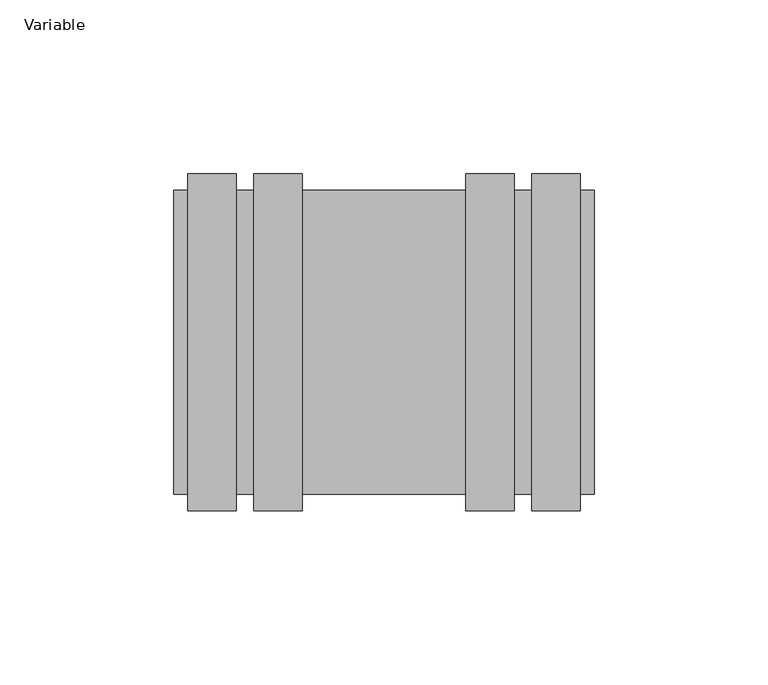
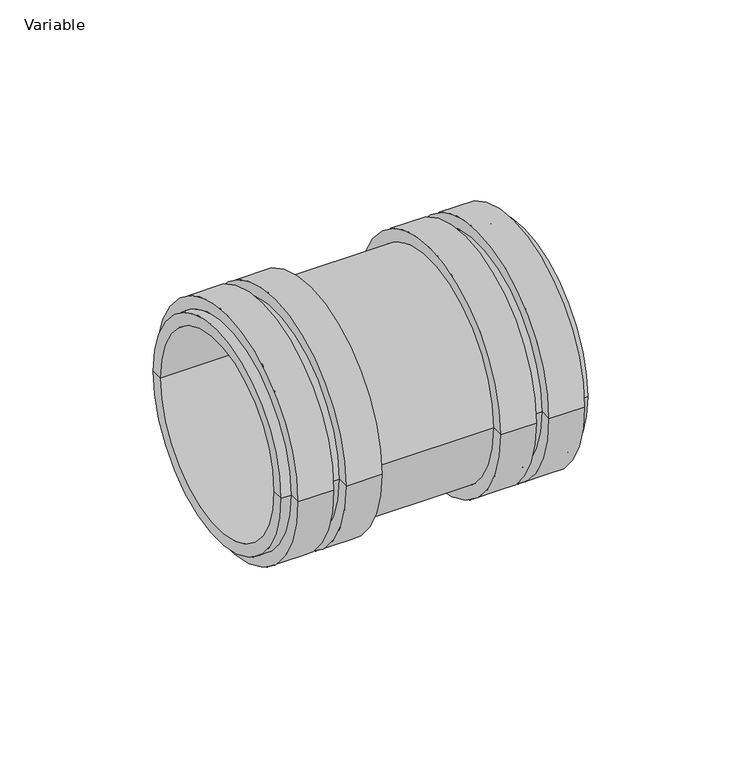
"""IFC4 building model written with IfcOpenShell, lengths in millimetres: pipe fitting geometry, AliaxisFR_Friaphon_AcousticCoupling_FR : Variable."""

from ifc_helpers import new_model, si_unit, frame, origin, place, context, project, spatial, polyline, circle_curve, source, transform, mapped, element, save
from ifc_brep_helpers import plane_surface, cylinder_surface, revolved_surface, advanced_brep


def variable_7b2c6562(model_context):
    return source(origin(), model_context, "Body", "AdvancedBrep", [
        advanced_brep(
        [(-6.5, -32.0, 0.0), (-6.5, 32.0, 0.0), (-6.5, 39.0, 0.0), (-6.5, -39.0, 0.0), (6.5, -32.0, 0.0), (6.5, 32.0, 0.0), (6.5, -39.0, 0.0), (6.5, 39.0, 0.0), (60.5, -39.0, 0.0), (60.5, 39.0, 0.0), (60.5, -43.75, 0.0), (60.5, 43.75, 0.0), (56.5, -43.75, 0.0), (56.5, 43.75, 0.0), (56.5, -48.5, 0.0), (56.5, 48.5, 0.0), (42.5, -48.5, 0.0), (42.5, 48.5, 0.0), (42.5, -43.75, 0.0), (42.5, 43.75, 0.0), (37.5, -43.75, 0.0), (37.5, 43.75, 0.0), (37.5, -48.5, 0.0), (37.5, 48.5, 0.0), (23.5, -48.5, 0.0), (23.5, 48.5, 0.0), (23.5, -43.75, 0.0), (23.5, 43.75, 0.0), (-23.5, -43.75, 0.0), (-23.5, 43.75, 0.0), (-23.5, -48.5, 0.0), (-23.5, 48.5, 0.0), (-37.5, -48.5, 0.0), (-37.5, 48.5, 0.0), (-37.5, -43.75, 0.0), (-37.5, 43.75, 0.0), (-42.5, -43.75, 0.0), (-42.5, 43.75, 0.0), (-42.5, -48.5, 0.0), (-42.5, 48.5, 0.0), (-56.5, -48.5, 0.0), (-56.5, 48.5, 0.0), (-56.5, -43.75, 0.0), (-56.5, 43.75, 0.0), (-60.5, -43.75, 0.0), (-60.5, 43.75, 0.0), (-60.5, -39.0, 0.0), (-60.5, 39.0, 0.0)],
        [
            (0, 1, circle_curve(frame((-6.5, 0.0, 0.0), z_axis=(1.0, 0.0, 0.0), x_axis=(0.0, 1.0, 0.0)), 32.0)),
            (1, 2),
            (2, 3, circle_curve(frame((-6.5, 0.0, 0.0), z_axis=(-1.0, 0.0, 0.0), x_axis=(0.0, 1.0, 0.0)), 39.0)),
            (3, 0),
            (1, 0, circle_curve(frame((-6.5, 0.0, 0.0), z_axis=(1.0, 0.0, 0.0), x_axis=(0.0, 1.0, 0.0)), 32.0)),
            (3, 2, circle_curve(frame((-6.5, 0.0, 0.0), z_axis=(-1.0, 0.0, 0.0), x_axis=(0.0, 1.0, 0.0)), 39.0)),
            (4, 5, circle_curve(frame((6.5, 0.0, 0.0), z_axis=(1.0, 0.0, 0.0), x_axis=(0.0, 1.0, 0.0)), 32.0)),
            (5, 1),
            (0, 4),
            (5, 4, circle_curve(frame((6.5, 0.0, 0.0), z_axis=(1.0, 0.0, 0.0), x_axis=(0.0, 1.0, 0.0)), 32.0)),
            (6, 7, circle_curve(frame((6.5, 0.0, 0.0), z_axis=(1.0, 0.0, 0.0), x_axis=(0.0, 1.0, 0.0)), 39.0)),
            (7, 5),
            (4, 6),
            (7, 6, circle_curve(frame((6.5, 0.0, 0.0), z_axis=(1.0, 0.0, 0.0), x_axis=(0.0, 1.0, 0.0)), 39.0)),
            (8, 9, circle_curve(frame((60.5, 0.0, 0.0), z_axis=(1.0, 0.0, 0.0), x_axis=(0.0, 1.0, 0.0)), 39.0)),
            (9, 7),
            (6, 8),
            (9, 8, circle_curve(frame((60.5, 0.0, 0.0), z_axis=(1.0, 0.0, 0.0), x_axis=(0.0, 1.0, 0.0)), 39.0)),
            (10, 11, circle_curve(frame((60.5, 0.0, 0.0), z_axis=(1.0, 0.0, 0.0), x_axis=(0.0, 1.0, 0.0)), 43.75)),
            (11, 9),
            (8, 10),
            (11, 10, circle_curve(frame((60.5, 0.0, 0.0), z_axis=(1.0, 0.0, 0.0), x_axis=(0.0, 1.0, 0.0)), 43.75)),
            (12, 13, circle_curve(frame((56.5, 0.0, 0.0), z_axis=(1.0, 0.0, 0.0), x_axis=(0.0, 1.0, 0.0)), 43.75)),
            (13, 11),
            (10, 12),
            (13, 12, circle_curve(frame((56.5, 0.0, 0.0), z_axis=(1.0, 0.0, 0.0), x_axis=(0.0, 1.0, 0.0)), 43.75)),
            (14, 15, circle_curve(frame((56.5, 0.0, 0.0), z_axis=(1.0, 0.0, 0.0), x_axis=(0.0, 1.0, 0.0)), 48.5)),
            (15, 13),
            (12, 14),
            (15, 14, circle_curve(frame((56.5, 0.0, 0.0), z_axis=(1.0, 0.0, 0.0), x_axis=(0.0, 1.0, 0.0)), 48.5)),
            (16, 17, circle_curve(frame((42.5, 0.0, 0.0), z_axis=(1.0, 0.0, 0.0), x_axis=(0.0, 1.0, 0.0)), 48.5)),
            (17, 15),
            (14, 16),
            (17, 16, circle_curve(frame((42.5, 0.0, 0.0), z_axis=(1.0, 0.0, 0.0), x_axis=(0.0, 1.0, 0.0)), 48.5)),
            (18, 19, circle_curve(frame((42.5, 0.0, 0.0), z_axis=(1.0, 0.0, 0.0), x_axis=(0.0, 1.0, 0.0)), 43.75)),
            (19, 17),
            (16, 18),
            (19, 18, circle_curve(frame((42.5, 0.0, 0.0), z_axis=(1.0, 0.0, 0.0), x_axis=(0.0, 1.0, 0.0)), 43.75)),
            (20, 21, circle_curve(frame((37.5, 0.0, 0.0), z_axis=(1.0, 0.0, 0.0), x_axis=(0.0, 1.0, 0.0)), 43.75)),
            (21, 19),
            (18, 20),
            (21, 20, circle_curve(frame((37.5, 0.0, 0.0), z_axis=(1.0, 0.0, 0.0), x_axis=(0.0, 1.0, 0.0)), 43.75)),
            (22, 23, circle_curve(frame((37.5, 0.0, 0.0), z_axis=(1.0, 0.0, 0.0), x_axis=(0.0, 1.0, 0.0)), 48.5)),
            (23, 21),
            (20, 22),
            (23, 22, circle_curve(frame((37.5, 0.0, 0.0), z_axis=(1.0, 0.0, 0.0), x_axis=(0.0, 1.0, 0.0)), 48.5)),
            (24, 25, circle_curve(frame((23.5, 0.0, 0.0), z_axis=(1.0, 0.0, 0.0), x_axis=(0.0, 1.0, 0.0)), 48.5)),
            (25, 23),
            (22, 24),
            (25, 24, circle_curve(frame((23.5, 0.0, 0.0), z_axis=(1.0, 0.0, 0.0), x_axis=(0.0, 1.0, 0.0)), 48.5)),
            (26, 27, circle_curve(frame((23.5, 0.0, 0.0), z_axis=(1.0, 0.0, 0.0), x_axis=(0.0, 1.0, 0.0)), 43.75)),
            (27, 25),
            (24, 26),
            (27, 26, circle_curve(frame((23.5, 0.0, 0.0), z_axis=(1.0, 0.0, 0.0), x_axis=(0.0, 1.0, 0.0)), 43.75)),
            (28, 29, circle_curve(frame((-23.5, 0.0, 0.0), z_axis=(1.0, 0.0, 0.0), x_axis=(0.0, 1.0, 0.0)), 43.75)),
            (29, 27),
            (26, 28),
            (29, 28, circle_curve(frame((-23.5, 0.0, 0.0), z_axis=(1.0, 0.0, 0.0), x_axis=(0.0, 1.0, 0.0)), 43.75)),
            (30, 31, circle_curve(frame((-23.5, 0.0, 0.0), z_axis=(1.0, 0.0, 0.0), x_axis=(0.0, 1.0, 0.0)), 48.5)),
            (31, 29),
            (28, 30),
            (31, 30, circle_curve(frame((-23.5, 0.0, 0.0), z_axis=(1.0, 0.0, 0.0), x_axis=(0.0, 1.0, 0.0)), 48.5)),
            (32, 33, circle_curve(frame((-37.5, 0.0, 0.0), z_axis=(1.0, 0.0, 0.0), x_axis=(0.0, 1.0, 0.0)), 48.5)),
            (33, 31),
            (30, 32),
            (33, 32, circle_curve(frame((-37.5, 0.0, 0.0), z_axis=(1.0, 0.0, 0.0), x_axis=(0.0, 1.0, 0.0)), 48.5)),
            (34, 35, circle_curve(frame((-37.5, 0.0, 0.0), z_axis=(1.0, 0.0, 0.0), x_axis=(0.0, 1.0, 0.0)), 43.75)),
            (35, 33),
            (32, 34),
            (35, 34, circle_curve(frame((-37.5, 0.0, 0.0), z_axis=(1.0, 0.0, 0.0), x_axis=(0.0, 1.0, 0.0)), 43.75)),
            (36, 37, circle_curve(frame((-42.5, 0.0, 0.0), z_axis=(1.0, 0.0, 0.0), x_axis=(0.0, 1.0, 0.0)), 43.75)),
            (37, 35),
            (34, 36),
            (37, 36, circle_curve(frame((-42.5, 0.0, 0.0), z_axis=(1.0, 0.0, 0.0), x_axis=(0.0, 1.0, 0.0)), 43.75)),
            (38, 39, circle_curve(frame((-42.5, 0.0, 0.0), z_axis=(1.0, 0.0, 0.0), x_axis=(0.0, 1.0, 0.0)), 48.5)),
            (39, 37),
            (36, 38),
            (39, 38, circle_curve(frame((-42.5, 0.0, 0.0), z_axis=(1.0, 0.0, 0.0), x_axis=(0.0, 1.0, 0.0)), 48.5)),
            (40, 41, circle_curve(frame((-56.5, 0.0, 0.0), z_axis=(1.0, 0.0, 0.0), x_axis=(0.0, 1.0, 0.0)), 48.5)),
            (41, 39),
            (38, 40),
            (41, 40, circle_curve(frame((-56.5, 0.0, 0.0), z_axis=(1.0, 0.0, 0.0), x_axis=(0.0, 1.0, 0.0)), 48.5)),
            (42, 43, circle_curve(frame((-56.5, 0.0, 0.0), z_axis=(1.0, 0.0, 0.0), x_axis=(0.0, 1.0, 0.0)), 43.75)),
            (43, 41),
            (40, 42),
            (43, 42, circle_curve(frame((-56.5, 0.0, 0.0), z_axis=(1.0, 0.0, 0.0), x_axis=(0.0, 1.0, 0.0)), 43.75)),
            (44, 45, circle_curve(frame((-60.5, 0.0, 0.0), z_axis=(1.0, 0.0, 0.0), x_axis=(0.0, 1.0, 0.0)), 43.75)),
            (45, 43),
            (42, 44),
            (45, 44, circle_curve(frame((-60.5, 0.0, 0.0), z_axis=(1.0, 0.0, 0.0), x_axis=(0.0, 1.0, 0.0)), 43.75)),
            (46, 47, circle_curve(frame((-60.5, 0.0, 0.0), z_axis=(1.0, 0.0, 0.0), x_axis=(0.0, 1.0, 0.0)), 39.0)),
            (47, 45),
            (44, 46),
            (47, 46, circle_curve(frame((-60.5, 0.0, 0.0), z_axis=(1.0, 0.0, 0.0), x_axis=(0.0, 1.0, 0.0)), 39.0)),
            (2, 47),
            (46, 3),
        ],
        [
            plane_surface(frame((-6.5, 0.0, 0.0), z_axis=(-1.0, 0.0, 0.0), x_axis=(0.0, 1.0, 0.0))),
            revolved_surface(polyline([(-6.5, 32.0, 0.0), (6.5, 32.0, 0.0)]), (2008.5, 0.0, 0.0), (-1.0, 0.0, 0.0)),
            plane_surface(frame((6.5, 0.0, 0.0), z_axis=(1.0, 0.0, 0.0), x_axis=(0.0, 1.0, 0.0))),
            revolved_surface(polyline([(6.5, 39.0, 0.0), (60.5, 39.0, 0.0)]), (2008.5, 0.0, 0.0), (-1.0, 0.0, 0.0)),
            plane_surface(frame((60.5, 0.0, 0.0), z_axis=(1.0, 0.0, 0.0), x_axis=(0.0, 1.0, 0.0))),
            cylinder_surface(frame((2008.5, 0.0, 0.0), z_axis=(-1.0, 0.0, 0.0), x_axis=(0.0, 1.0, 0.0)), 43.75),
            plane_surface(frame((56.5, 0.0, 0.0), z_axis=(1.0, 0.0, 0.0), x_axis=(0.0, 1.0, 0.0))),
            cylinder_surface(frame((2008.5, 0.0, 0.0), z_axis=(-1.0, 0.0, 0.0), x_axis=(0.0, 1.0, 0.0)), 48.5),
            plane_surface(frame((42.5, 0.0, 0.0), z_axis=(-1.0, 0.0, 0.0), x_axis=(0.0, 1.0, 0.0))),
            plane_surface(frame((37.5, 0.0, 0.0), z_axis=(1.0, 0.0, 0.0), x_axis=(0.0, 1.0, 0.0))),
            plane_surface(frame((23.5, 0.0, 0.0), z_axis=(-1.0, 0.0, 0.0), x_axis=(0.0, 1.0, 0.0))),
            plane_surface(frame((-23.5, 0.0, 0.0), z_axis=(1.0, 0.0, 0.0), x_axis=(0.0, 1.0, 0.0))),
            plane_surface(frame((-37.5, 0.0, 0.0), z_axis=(-1.0, 0.0, 0.0), x_axis=(0.0, 1.0, 0.0))),
            plane_surface(frame((-42.5, 0.0, 0.0), z_axis=(1.0, 0.0, 0.0), x_axis=(0.0, 1.0, 0.0))),
            plane_surface(frame((-56.5, 0.0, 0.0), z_axis=(-1.0, 0.0, 0.0), x_axis=(0.0, 1.0, 0.0))),
            plane_surface(frame((-60.5, 0.0, 0.0), z_axis=(-1.0, 0.0, 0.0), x_axis=(0.0, 1.0, 0.0))),
            revolved_surface(polyline([(-60.5, 39.0, 0.0), (-6.5, 39.0, 0.0)]), (2008.5, 0.0, 0.0), (-1.0, 0.0, 0.0)),
        ],
        [
            (0, [[1, 2, 3, 4]]),
            (0, [[5, -4, 6, -2]]),
            (1, [[7, 8, -1, 9]]),
            (1, [[10, -9, -5, -8]]),
            (2, [[11, 12, -7, 13]]),
            (2, [[14, -13, -10, -12]]),
            (3, [[15, 16, -11, 17]]),
            (3, [[18, -17, -14, -16]]),
            (4, [[19, 20, -15, 21]]),
            (4, [[22, -21, -18, -20]]),
            (5, [[23, 24, -19, 25]]),
            (5, [[26, -25, -22, -24]]),
            (6, [[27, 28, -23, 29]]),
            (6, [[30, -29, -26, -28]]),
            (7, [[31, 32, -27, 33]]),
            (7, [[34, -33, -30, -32]]),
            (8, [[35, 36, -31, 37]]),
            (8, [[38, -37, -34, -36]]),
            (5, [[39, 40, -35, 41]]),
            (5, [[42, -41, -38, -40]]),
            (9, [[43, 44, -39, 45]]),
            (9, [[46, -45, -42, -44]]),
            (7, [[47, 48, -43, 49]]),
            (7, [[50, -49, -46, -48]]),
            (10, [[51, 52, -47, 53]]),
            (10, [[54, -53, -50, -52]]),
            (5, [[55, 56, -51, 57]]),
            (5, [[58, -57, -54, -56]]),
            (11, [[59, 60, -55, 61]]),
            (11, [[62, -61, -58, -60]]),
            (7, [[63, 64, -59, 65]]),
            (7, [[66, -65, -62, -64]]),
            (12, [[67, 68, -63, 69]]),
            (12, [[70, -69, -66, -68]]),
            (5, [[71, 72, -67, 73]]),
            (5, [[74, -73, -70, -72]]),
            (13, [[75, 76, -71, 77]]),
            (13, [[78, -77, -74, -76]]),
            (7, [[79, 80, -75, 81]]),
            (7, [[82, -81, -78, -80]]),
            (14, [[83, 84, -79, 85]]),
            (14, [[86, -85, -82, -84]]),
            (5, [[87, 88, -83, 89]]),
            (5, [[90, -89, -86, -88]]),
            (15, [[91, 92, -87, 93]]),
            (15, [[94, -93, -90, -92]]),
            (16, [[-3, 95, -91, 96]]),
            (16, [[-6, -96, -94, -95]]),
        ],
    ),
    ])


if __name__ == "__main__":
    model = new_model("IFC4")
    model_context = context("Model", 3, world=origin())
    ifc_project = project(units=[si_unit("LENGTHUNIT", "METRE", prefix="MILLI")], contexts=[model_context])
    site = spatial("IfcSite", under=ifc_project)
    building = spatial("IfcBuilding", under=site)
    placement = place(None, origin())
    variable_shape = variable_7b2c6562(model_context)
    element("IfcPipeFitting", 1, ObjectType="AliaxisFR_Friaphon_AcousticCoupling_FR : Variable", at=placement, inside=building, context=model_context, shape_type="MappedRepresentation", body=[
        mapped(variable_shape, transform((0.0, 0.0, 0.0), x_axis=(1.0, 0.0, 0.0), y_axis=(0.0, 1.0, 0.0), z_axis=(0.0, 0.0, 1.0))),
    ])
    save(model, "model.ifc")
